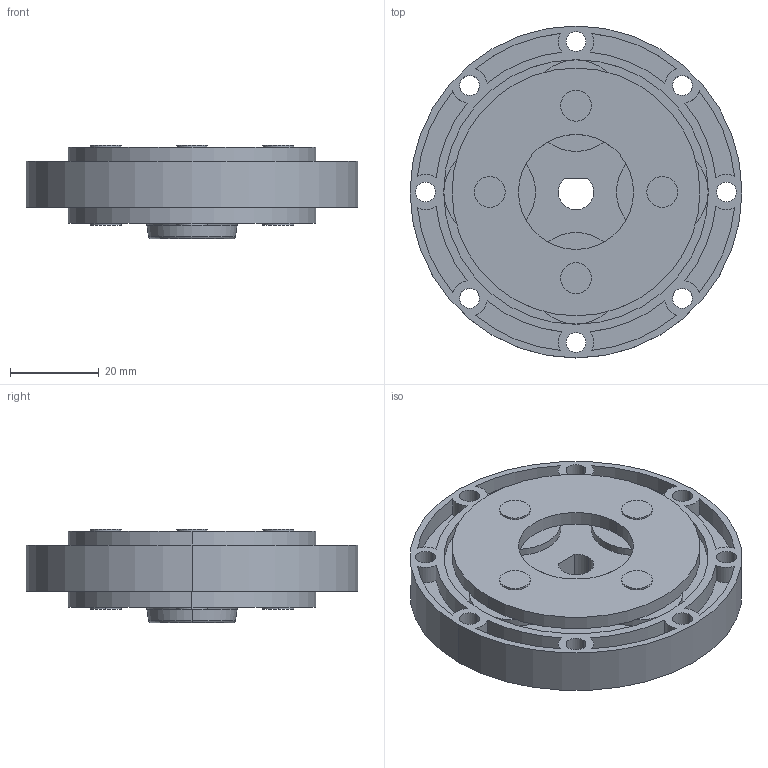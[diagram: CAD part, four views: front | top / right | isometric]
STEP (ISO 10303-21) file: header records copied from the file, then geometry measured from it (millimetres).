
FILE_DESCRIPTION (( 'STEP AP203' ), '1' );
FILE_NAME ('LGU75-4PAD.step', '2021-07-23T02:25:20', ( '' ), ( '' ), 'SwSTEP 2.0', 'SolidWorks 2021', '' );
FILE_SCHEMA (( 'CONFIG_CONTROL_DESIGN' ));
Length unit declared in the file: millimetre
Products named in the file (1): LGU75-4PAD
Bounding box: 75 x 75 x 21.1 mm (x, y, z)
Volume: 48024.4 mm3; surface area: 27468.2 mm2
Topology: 1 solids, 1 shells, 349 faces, 920 edges, 612 vertices
Faces by surface type: cylinder 301, plane 42, torus 4, cone 2
Entity records: 11301 total; most frequent: DIRECTION 2234, CARTESIAN_POINT 1882, ORIENTED_EDGE 1840, AXIS2_PLACEMENT_3D 964, EDGE_CURVE 920, CIRCLE 614, VERTEX_POINT 612, EDGE_LOOP 422
